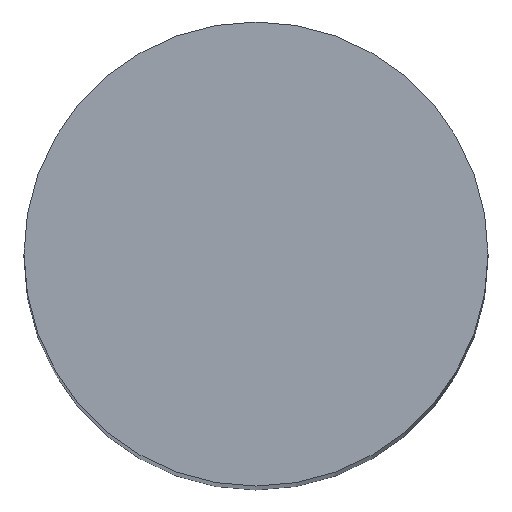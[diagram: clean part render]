
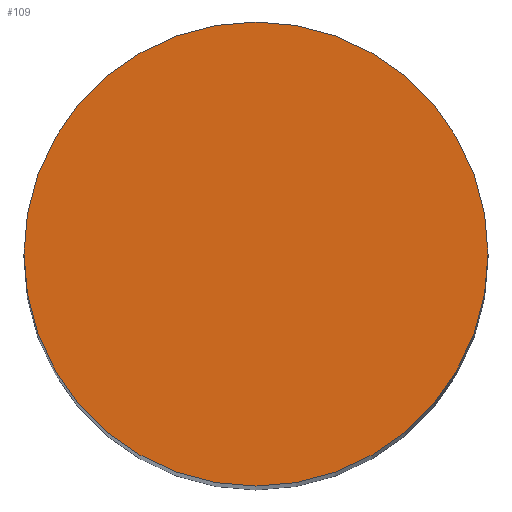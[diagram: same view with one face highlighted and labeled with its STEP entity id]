
A CAD part, top view. The second image highlights one B-rep face of the part: STEP entity #109.
In plain terms, the highlighted planar face has unit normal (0, 0, 1).
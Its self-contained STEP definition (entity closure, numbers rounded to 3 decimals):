
#24 = VERTEX_POINT('',#25);
#25 = CARTESIAN_POINT('',(44.,35.,425.));
#32 = CYLINDRICAL_SURFACE('',#33,44.);
#33 = AXIS2_PLACEMENT_3D('',#34,#35,#36);
#34 = CARTESIAN_POINT('',(0.,35.,0.));
#35 = DIRECTION('',(-0.,-0.,-1.));
#36 = DIRECTION('',(1.,0.,0.));
#51 = EDGE_CURVE('',#24,#24,#52,.T.);
#52 = SURFACE_CURVE('',#53,(#58,#65),.PCURVE_S1.);
#53 = CIRCLE('',#54,44.);
#54 = AXIS2_PLACEMENT_3D('',#55,#56,#57);
#55 = CARTESIAN_POINT('',(0.,35.,425.));
#56 = DIRECTION('',(0.,0.,1.));
#57 = DIRECTION('',(1.,0.,0.));
#58 = PCURVE('',#32,#59);
#59 = DEFINITIONAL_REPRESENTATION('',(#60),#64);
#60 = LINE('',#61,#62);
#61 = CARTESIAN_POINT('',(-0.,-425.));
#62 = VECTOR('',#63,1.);
#63 = DIRECTION('',(-1.,0.));
#64 = ( GEOMETRIC_REPRESENTATION_CONTEXT(2) 
PARAMETRIC_REPRESENTATION_CONTEXT() REPRESENTATION_CONTEXT('2D SPACE',''
  ) );
#65 = PCURVE('',#66,#71);
#66 = PLANE('',#67);
#67 = AXIS2_PLACEMENT_3D('',#68,#69,#70);
#68 = CARTESIAN_POINT('',(0.,35.,425.));
#69 = DIRECTION('',(0.,0.,1.));
#70 = DIRECTION('',(1.,0.,-0.));
#71 = DEFINITIONAL_REPRESENTATION('',(#72),#76);
#72 = CIRCLE('',#73,44.);
#73 = AXIS2_PLACEMENT_2D('',#74,#75);
#74 = CARTESIAN_POINT('',(0.,0.));
#75 = DIRECTION('',(1.,0.));
#76 = ( GEOMETRIC_REPRESENTATION_CONTEXT(2) 
PARAMETRIC_REPRESENTATION_CONTEXT() REPRESENTATION_CONTEXT('2D SPACE',''
  ) );
#109 = ADVANCED_FACE('',(#110),#66,.T.);
#110 = FACE_BOUND('',#111,.T.);
#111 = EDGE_LOOP('',(#112));
#112 = ORIENTED_EDGE('',*,*,#51,.T.);
